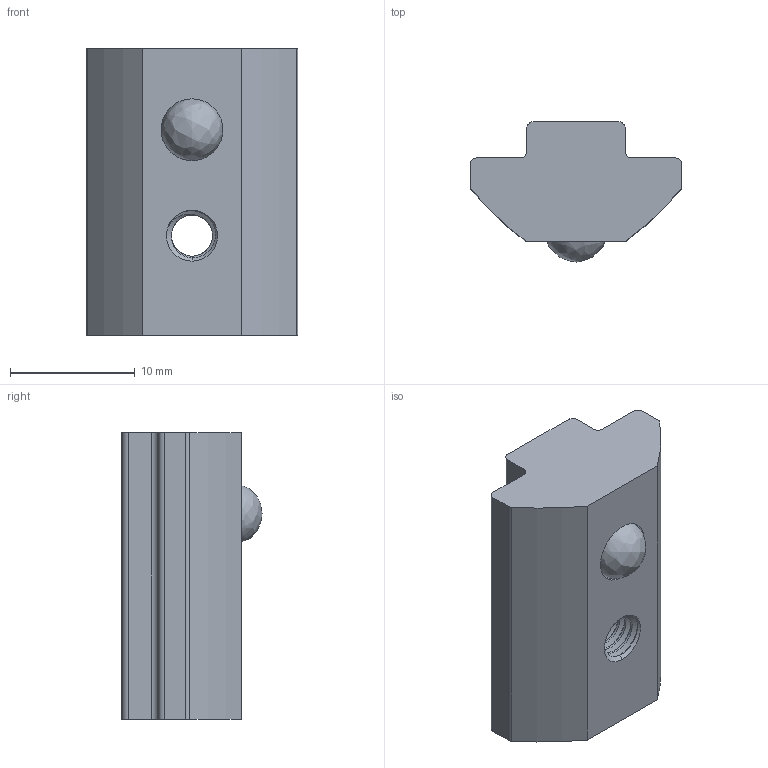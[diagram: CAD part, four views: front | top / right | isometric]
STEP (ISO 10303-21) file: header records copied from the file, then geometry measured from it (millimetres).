
FILE_DESCRIPTION (( 'STEP AP203' ), '1' );
FILE_NAME ('356030_Nutenstein 8 M4 schwer mit Steg und Federkugel.step', '2022-11-24T09:08:43', ( '' ), ( '' ), 'SwSTEP 2.0', 'SolidWorks 2021', '' );
FILE_SCHEMA (( 'CONFIG_CONTROL_DESIGN' ));
Length unit declared in the file: millimetre
Products named in the file (1): 356030_Nutenstein 8 M4 schwer mit Steg und Federkugel
Bounding box: 17 x 11.25 x 23 mm (x, y, z)
Volume: 2583.1 mm3; surface area: 1617.7 mm2
Topology: 1 solids, 2 shells, 64 faces, 175 edges, 116 vertices
Faces by surface type: cylinder 41, plane 11, cone 6, bspline 6
Entity records: 5768 total; most frequent: CARTESIAN_POINT 4207, ORIENTED_EDGE 350, DIRECTION 266, EDGE_CURVE 175, VERTEX_POINT 116, AXIS2_PLACEMENT_3D 98, LINE 70, VECTOR 70
